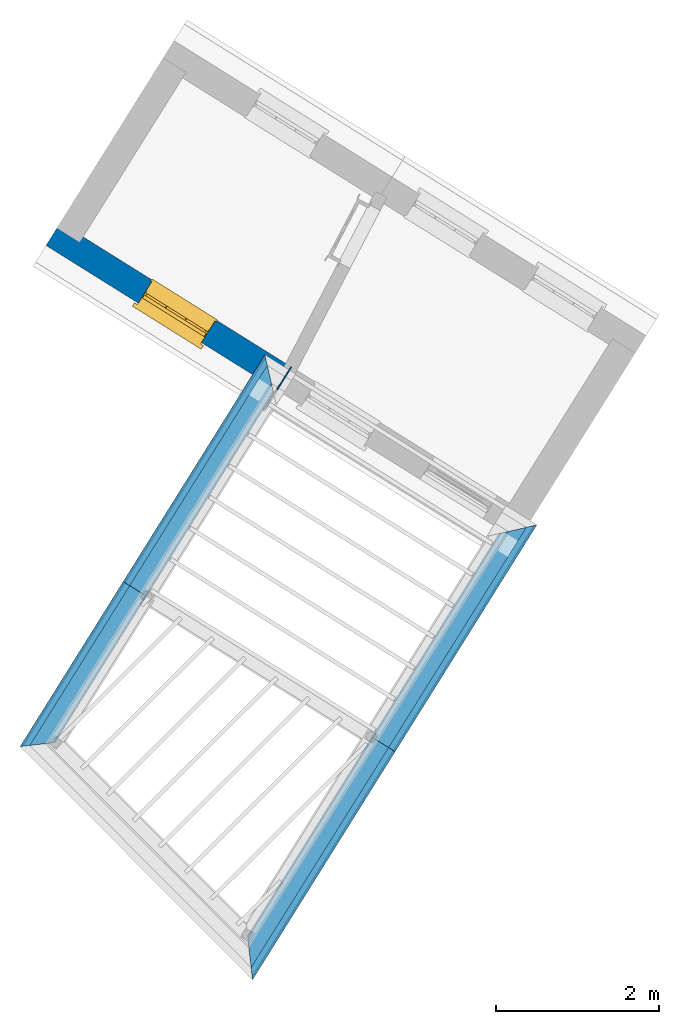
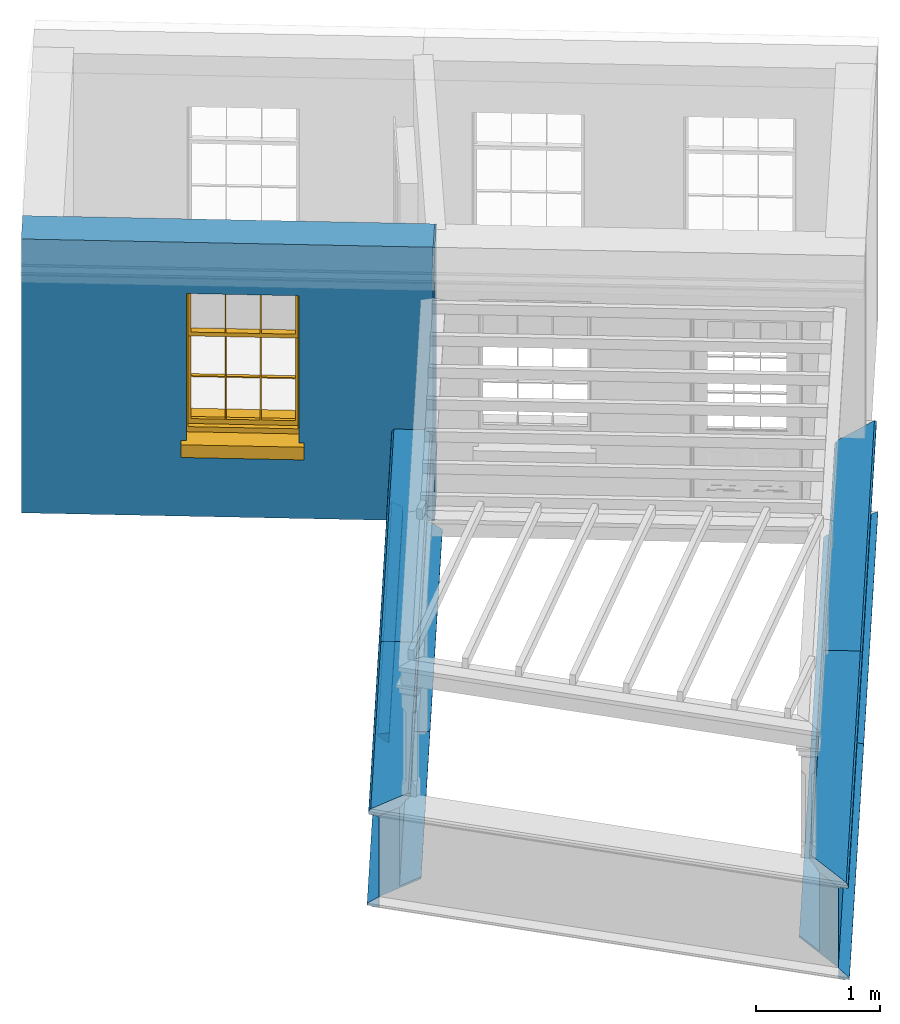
# One storey, part 2 of 5: 14 walls, 1 window, 1 opening.
"""IFC4 building model written with IfcOpenShell, lengths in metres."""

from ifc_helpers import new_model, si_unit, frame, origin, origin_with_axes, place, context, subcontext, project, spatial, polyline, outline, extrude, clip, halfspace, faceted_brep, source, transform, mapped, material, layer, layer_set, layer_usage, material_profile, profile_set, profile_usage, type_object, type_shapes, element, fill, save


model = new_model("IFC4")

# Units and contexts
model_context = context("Model", 3, world=origin_with_axes())
body_context = subcontext(model_context, "Body", "Model", "MODEL_VIEW")
ifc_project = project(units=[si_unit("PLANEANGLEUNIT", "RADIAN"), si_unit("MASSUNIT", "GRAM", prefix="KILO"), si_unit("FORCEUNIT", "NEWTON", prefix="KILO"), si_unit("LENGTHUNIT", "METRE"), si_unit("AREAUNIT", "SQUARE_METRE"), si_unit("VOLUMEUNIT", "CUBIC_METRE")], contexts=[model_context, model_context])

# Sites, building, storey
site_1_placement = place(None, origin_with_axes())
site_1 = spatial("IfcSite", under=ifc_project, at=site_1_placement, Name="Tamar")
site_2_placement = place(site_1_placement, origin_with_axes())
site_2 = spatial("IfcSite", under=site_1, at=site_2_placement, Name="Site plot-3", CompositionType="ELEMENT")
building_placement = place(None, origin_with_axes())
building = spatial("IfcBuilding", under=site_2, at=building_placement, Name="Building plot-3", CompositionType="ELEMENT")
storey_placement = place(None, frame((0.0, 0.0, 30.5), z_axis=(0.0, 0.0, 1.0), x_axis=(1.0, 0.0, 0.0)))
storey = spatial("IfcBuildingStorey", under=building, at=storey_placement, Name="plot-3 2", CompositionType="ELEMENT", Elevation=30.5)

# Wall, opening, window
ifc_material = material(Name="Masonry")
ifc_layer = layer(ifc_material, 0.33, ventilated=False)
ifc_layer_set = layer_set([ifc_layer], Name="exterior_0.08_0.25")
ifc_layer_usage = layer_usage(ifc_layer_set, "AXIS2", "POSITIVE", -0.25)
wall_type_1 = type_object("IfcWallType", Name="exterior_0.08_0.25", PredefinedType="SOLIDWALL", material=ifc_layer_set)
wall_1_placement = place(storey_placement, frame((213.677187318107, 287.698431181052, 0.0), z_axis=(0.0, 0.0, 1.0), x_axis=(0.847981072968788, -0.530026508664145, 0.0)))
wall_1 = element("IfcWall", 1, at=wall_1_placement, inside=storey, type_object=wall_type_1, material=ifc_layer_usage, Name="exterior", context=body_context, shape_type="SweptSolid", body=[
    extrude(outline(polyline([(-0.249999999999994, 0.0800000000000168), (-0.249999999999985, -0.250000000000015), (3.0776536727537, -0.25000000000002), (3.07765367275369, 0.0800000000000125), (-0.249999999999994, 0.0800000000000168)])), origin_with_axes(), (0.0, 0.0, 1.0), 2.7),
])
opening_placement = place(wall_1_placement, frame((1.08382683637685, 0.0, 0.75)))
opening = element("IfcOpeningElement", 2, at=opening_placement, cuts=wall_1, Name="My Opening", ObjectType="Opening", context=body_context, shape_type="SweptSolid", body=[
    extrude(outline(polyline([(0.0, -0.269999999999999), (0.909999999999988, -0.270000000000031), (0.91, 1.09999999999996), (1.24344978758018e-14, 1.09999999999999), (0.0, -0.269999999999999)])), origin_with_axes(), (0.0, 0.0, 1.0), 1.445),
])
window_type = type_object("IfcWindowType", Name="sash_shorter", PartitioningType="DOUBLE_PANEL_HORIZONTAL", PredefinedType="NOTDEFINED")
shared_shape = source(origin(), body_context, "Body", "Brep", [
    faceted_brep([(0.876875, 0.145, 0.999097), (0.876875, 0.145, 1.411875), (0.9, 0.145, 1.435), (0.033125, 0.145, 1.411875), (0.033125, 0.145, 0.999097), (0.01, 0.145, 1.435), (0.033125, 0.115, 1.411875), (0.01, 0.115, 1.435), (0.033125, 0.115, 0.999097), (0.876875, 0.115, 1.411875), (0.876875, 0.115, 0.999097), (0.9, 0.115, 1.435), (0.033125, 0.145, 0.960972), (0.01, 0.145, 0.960972), (0.033125, 0.145, 0.548195), (0.876875, 0.145, 0.960972), (0.876875, 0.145, 0.548195), (0.9, 0.145, 0.960972), (0.876875, 0.145, 0.538195), (0.876875, 0.145, 0.125417), (0.9, 0.145, 0.077167), (0.033125, 0.145, 0.125417), (0.033125, 0.145, 0.538195), (0.01, 0.145, 0.077167), (0.9, 0.115, 0.960972), (0.01, 0.115, 0.960972), (-0.0425, 0.0, 0.01), (-0.0425, -0.05, 0.001667), (0.0, 0.0, 0.01), (0.9525, 0.0, 0.01), (0.91, 0.0, 0.01), (0.9525, -0.05, 0.001667), (-0.02, 0.33, 0.077167), (0.0, 0.33, 0.077167), (-0.02, 0.36, 0.077167), (0.0, 0.19, 0.077167), (0.01, 0.19, 0.077167), (0.91, 0.19, 0.077167), (0.91, 0.33, 0.077167), (0.9, 0.19, 0.077167), (0.93, 0.33, 0.077167), (0.93, 0.36, 0.077167), (0.01, 0.145, 0.999097), (0.01, 0.175, 0.999097), (0.9, 0.145, 0.999097), (0.9, 0.175, 0.999097), (0.876875, 0.175, 0.125417), (0.876875, 0.175, 0.538195), (0.9, 0.175, 0.077167), (0.876875, 0.175, 0.548195), (0.876875, 0.175, 0.960972), (0.033125, 0.175, 0.125417), (0.01, 0.175, 0.077167), (0.033125, 0.175, 0.538195), (0.033125, 0.175, 0.960972), (0.033125, 0.175, 0.548195), (-0.02, 0.33, 0.052167), (-0.02, 0.36, 0.052167), (0.93, 0.36, 0.052167), (0.93, 0.33, 0.052167), (0.91, 0.33, 0.052167), (0.0, 0.33, 0.052167), (0.91, 0.1, 0.026667), (0.0, 0.1, 0.026667), (-0.0425, -0.05, -0.123333), (0.9525, -0.05, -0.123333), (-0.0425, 0.0, -0.123333), (0.9525, 0.0, -0.123333), (0.01, 0.19, 1.435), (0.9, 0.19, 1.435), (0.0, 0.19, 1.445), (0.91, 0.19, 1.445), (0.01, 0.1, 0.077167), (0.9, 0.1, 0.077167), (0.592292, 0.145, 0.125417), (0.592292, 0.175, 0.125417), (0.317708, 0.175, 0.125417), (0.317708, 0.145, 0.125417), (0.592292, 0.145, 0.548195), (0.317708, 0.145, 0.548195), (0.317708, 0.145, 0.538195), (0.592292, 0.145, 0.538195), (0.592292, 0.175, 0.548195), (0.317708, 0.175, 0.548195), (0.602292, 0.175, 0.548195), (0.602292, 0.145, 0.548195), (0.317708, 0.175, 0.538195), (0.307708, 0.175, 0.125417), (0.307708, 0.175, 0.538195), (0.602292, 0.175, 0.538195), (0.602292, 0.175, 0.125417), (0.592292, 0.175, 0.538195), (0.307708, 0.175, 0.548195), (0.317708, 0.175, 0.960972), (0.307708, 0.175, 0.960972), (0.602292, 0.175, 0.960972), (0.592292, 0.175, 0.960972), (0.307708, 0.145, 0.538195), (0.307708, 0.145, 0.125417), (0.307708, 0.145, 0.548195), (0.307708, 0.145, 0.960972), (0.592292, 0.145, 0.960972), (0.317708, 0.145, 0.960972), (0.602292, 0.145, 0.960972), (0.602292, 0.145, 0.538195), (0.602292, 0.145, 0.125417), (0.317708, 0.115, 1.411875), (0.307708, 0.115, 1.411875), (0.307708, 0.115, 0.999097), (0.317708, 0.115, 0.999097), (0.602292, 0.115, 1.411875), (0.592292, 0.115, 1.411875), (0.592292, 0.115, 0.999097), (0.602292, 0.115, 0.999097), (0.317708, 0.145, 0.999097), (0.307708, 0.145, 0.999097), (0.307708, 0.145, 1.411875), (0.317708, 0.145, 1.411875), (0.602292, 0.145, 0.999097), (0.592292, 0.145, 0.999097), (0.592292, 0.145, 1.411875), (0.602292, 0.145, 1.411875), (0.91, 0.1, 1.445), (0.9, 0.1, 1.435), (0.01, 0.1, 1.435), (0.0, 0.1, 1.445), (0.91, 0.0, 0.0), (0.0, 0.0, 0.0), (0.91, 0.33, 0.0), (0.0, 0.33, 0.0)], [[[0, 1, 2]], [[3, 4, 5]], [[6, 7, 8]], [[9, 10, 11]], [[12, 13, 14]], [[15, 16, 17]], [[18, 19, 20]], [[21, 22, 23]], [[24, 15, 17]], [[13, 12, 25]], [[26, 27, 28]], [[29, 30, 31]], [[32, 33, 34]], [[35, 36, 33]], [[37, 38, 39]], [[40, 41, 38]], [[42, 4, 43]], [[44, 45, 0]], [[46, 47, 48]], [[49, 50, 45]], [[51, 52, 53]], [[54, 55, 43]], [[38, 33, 36, 39]], [[41, 34, 33, 38]], [[56, 32, 34, 57]], [[57, 34, 41, 58]], [[58, 41, 40, 59]], [[57, 58, 60, 61]], [[52, 48, 39, 36]], [[62, 63, 28, 30]], [[27, 31, 30, 28]], [[27, 64, 65, 31]], [[66, 67, 65, 64]], [[2, 5, 68, 69]], [[68, 70, 71, 69]], [[20, 23, 72, 73]], [[73, 72, 63, 62]], [[74, 75, 76, 77]], [[78, 79, 80, 81]], [[78, 82, 83, 79]], [[16, 49, 84, 85]], [[86, 76, 87, 88]], [[89, 90, 75, 91]], [[92, 88, 53, 55]], [[82, 91, 86, 83]], [[93, 83, 92, 94]], [[95, 84, 82, 96]], [[89, 84, 49, 47]], [[97, 88, 87, 98]], [[22, 53, 88, 97]], [[81, 91, 75, 74]], [[80, 86, 91, 81]], [[77, 76, 86, 80]], [[99, 92, 55, 14]], [[100, 94, 92, 99]], [[101, 96, 82, 78]], [[79, 83, 93, 102]], [[85, 84, 95, 103]], [[104, 89, 47, 18]], [[105, 90, 89, 104]], [[104, 18, 16, 85]], [[80, 97, 98, 77]], [[104, 81, 74, 105]], [[103, 101, 78, 85]], [[99, 14, 22, 97]], [[102, 100, 99, 79]], [[106, 107, 108, 109]], [[110, 111, 112, 113]], [[114, 115, 116, 117]], [[118, 119, 120, 121]], [[107, 116, 115, 108]], [[111, 120, 119, 112]], [[109, 114, 117, 106]], [[113, 118, 121, 110]], [[85, 78, 81, 104]], [[84, 89, 91, 82]], [[83, 86, 88, 92]], [[79, 99, 97, 80]], [[109, 112, 119, 114]], [[102, 93, 96, 101]], [[106, 117, 120, 111]], [[98, 87, 51, 21]], [[6, 3, 116, 107]], [[110, 121, 1, 9]], [[19, 46, 90, 105]], [[26, 66, 64, 27]], [[29, 31, 65, 67]], [[25, 24, 112, 109]], [[11, 7, 106, 111]], [[75, 48, 52, 76]], [[43, 45, 96, 93]], [[45, 43, 114, 119]], [[5, 2, 120, 117]], [[24, 25, 102, 101]], [[42, 5, 4]], [[2, 44, 0]], [[49, 45, 48, 47]], [[52, 43, 55, 53]], [[14, 13, 23, 22]], [[20, 17, 16, 18]], [[24, 11, 10]], [[25, 8, 7]], [[8, 4, 3, 6]], [[9, 1, 0, 10]], [[15, 50, 49, 16]], [[18, 47, 46, 19]], [[21, 51, 53, 22]], [[14, 55, 54, 12]], [[44, 2, 69, 45]], [[68, 5, 42, 43]], [[36, 35, 70, 68]], [[39, 69, 71, 37]], [[62, 122, 123, 73]], [[63, 72, 124, 125]], [[8, 108, 115, 4]], [[113, 10, 0, 118]], [[94, 100, 12, 54]], [[17, 20, 73, 24]], [[72, 23, 13, 25]], [[52, 36, 68, 43]], [[69, 39, 48, 45]], [[11, 24, 73, 123]], [[7, 124, 72, 25]], [[23, 77, 98]], [[98, 21, 23]], [[105, 74, 20]], [[20, 19, 105]], [[20, 74, 77, 23]], [[113, 112, 24]], [[24, 10, 113]], [[25, 109, 108]], [[108, 8, 25]], [[110, 9, 11]], [[11, 111, 110]], [[7, 6, 107]], [[107, 106, 7]], [[5, 117, 116]], [[116, 3, 5]], [[121, 120, 2]], [[2, 1, 121]], [[11, 123, 124, 7]], [[122, 125, 124, 123]], [[43, 93, 94]], [[94, 54, 43]], [[96, 45, 95]], [[50, 95, 45]], [[15, 103, 95, 50]], [[48, 75, 90]], [[90, 46, 48]], [[87, 76, 52]], [[52, 51, 87]], [[103, 15, 24]], [[24, 101, 103]], [[100, 102, 25]], [[25, 12, 100]], [[115, 114, 43]], [[43, 4, 115]], [[118, 0, 45]], [[45, 119, 118]], [[71, 70, 125, 122]], [[70, 35, 63, 125]], [[122, 62, 37, 71]], [[126, 67, 66, 127]], [[60, 58, 59]], [[38, 60, 59, 40]], [[61, 56, 57]], [[32, 56, 61, 33]], [[61, 60, 128, 129]], [[62, 60, 38, 37]], [[126, 128, 60, 62]], [[33, 61, 63, 35]], [[61, 129, 127, 63]], [[128, 126, 127, 129]], [[28, 127, 66, 26]], [[63, 127, 28]], [[29, 67, 126, 30]], [[30, 126, 62]]]),
])
type_shapes(window_type, [shared_shape])
window_placement = place(storey_placement, frame((214.453144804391, 286.895019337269, 0.75), z_axis=(0.0, 0.0, 1.0), x_axis=(0.77166277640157, -0.482324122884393, 0.0)))
window = element("IfcWindow", 3, at=window_placement, inside=storey, type_object=window_type, Name="bedroom outside window", OverallHeight=1.445, OverallWidth=0.91, context=body_context, shape_type="MappedRepresentation", body=[
    mapped(shared_shape, transform((0.0, 0.0, 0.0), scale=1.0)),
])
fill(opening, window)

# Walls
wall_2_placement = place(storey_placement, frame((216.286979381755, 286.067193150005, 0.0), z_axis=(0.0, 0.0, 1.0), x_axis=(0.847981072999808, -0.530026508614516, 0.0)))
element("IfcWall", 4, at=wall_2_placement, inside=storey, type_object=wall_type_1, material=ifc_layer_usage, Name="exterior", context=body_context, shape_type="SweptSolid", body=[
    extrude(outline(polyline([(4.68415130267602e-12, 0.0800000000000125), (-1.46205729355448e-11, -0.25000000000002), (0.0143229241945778, -0.249999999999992), (0.0143229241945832, 0.0799999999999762), (4.68415130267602e-12, 0.0800000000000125)])), origin_with_axes(), (0.0, 0.0, 1.0), 2.7),
])
ifc_material_profile_1 = material_profile(None, outline(polyline([(0.25, 0.0), (0.25, 0.795), (0.09, 0.795), (0.09, 0.02), (-0.08, 0.02), (-0.08, 0.0), (0.25, 0.0)])))
ifc_profile_set_1 = profile_set([ifc_material_profile_1])
ifc_profile_usage_1 = profile_usage(ifc_profile_set_1)
wall_type_2 = type_object("IfcWallType", Name="parapet_0", PredefinedType="PARAPET", material=ifc_profile_set_1)
wall_3_placement = place(storey_placement, frame((214.039351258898, 282.47124827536, 0.0), z_axis=(0.530026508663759, 0.847981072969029, 0.0), x_axis=(-0.847981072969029, 0.530026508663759, 0.0)))
element("IfcWall", 5, at=wall_3_placement, inside=storey, type_object=wall_type_2, material=ifc_profile_usage_1, Name="parapet_0", context=body_context, shape_type="Clipping", body=[
    clip(clip(extrude(outline(polyline([(0.25, 0.0), (0.25, 0.795), (0.09, 0.795), (0.09, 0.02), (-0.08, 0.02), (-0.08, 0.0), (0.25, 0.0)])), origin_with_axes(), (0.0, 0.0, 1.0), 4.9305956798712), halfspace(frame((0.0, 0.0, 3.9305956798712), z_axis=(0.707106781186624, 0.0, -0.707106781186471), x_axis=(0.0, 1.0, 0.0)), True)), halfspace(frame((0.0, 0.0, 1.0), z_axis=(-1.83758917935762e-15, 0.0, -1.0), x_axis=(0.0, 1.0, 0.0)), False)),
])
ifc_profile_usage_2 = profile_usage(ifc_profile_set_1)
wall_4_placement = place(storey_placement, frame((212.921650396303, 280.683056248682, 0.0), z_axis=(0.530026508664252, 0.847981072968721, 0.0), x_axis=(-0.847981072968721, 0.530026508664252, 0.0)))
element("IfcWall", 6, at=wall_4_placement, inside=storey, type_object=wall_type_2, material=ifc_profile_usage_2, Name="parapet_0", context=body_context, shape_type="Clipping", body=[
    clip(clip(extrude(outline(polyline([(0.25, 0.0), (0.25, 0.795), (0.09, 0.795), (0.09, 0.02), (-0.08, 0.02), (-0.08, 0.0), (0.25, 0.0)])), origin_with_axes(), (0.0, 0.0, 1.0), 4.10876407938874), halfspace(frame((0.0, 0.0, 3.10876407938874), z_axis=(-5.82706275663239e-13, 0.0, -1.0), x_axis=(0.0, 1.0, 0.0)), True)), halfspace(frame((0.0, 0.0, 1.0), z_axis=(-0.621754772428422, 0.0, -0.783211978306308), x_axis=(0.0, 1.0, 0.0)), False)),
])
ifc_profile_usage_3 = profile_usage(ifc_profile_set_1)
wall_5_placement = place(storey_placement, frame((217.846750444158, 282.449994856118, 0.0), z_axis=(-0.530026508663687, -0.847981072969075, 0.0), x_axis=(0.847981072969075, -0.530026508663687, 0.0)))
element("IfcWall", 7, at=wall_5_placement, inside=storey, type_object=wall_type_2, material=ifc_profile_usage_3, Name="parapet_0", context=body_context, shape_type="Clipping", body=[
    clip(clip(extrude(outline(polyline([(0.25, 0.0), (0.25, 0.795), (0.09, 0.795), (0.09, 0.02), (-0.08, 0.02), (-0.08, 0.0), (0.25, 0.0)])), origin_with_axes(), (0.0, 0.0, 1.0), 4.86337356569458), halfspace(frame((0.0, 0.0, 3.86337356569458), z_axis=(0.78321197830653, 0.0, -0.621754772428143), x_axis=(0.0, 1.0, 0.0)), True)), halfspace(frame((0.0, 0.0, 1.0), z_axis=(6.60010580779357e-15, 0.0, -1.0), x_axis=(0.0, 1.0, 0.0)), False)),
])
ifc_profile_usage_4 = profile_usage(ifc_profile_set_1)
wall_6_placement = place(storey_placement, frame((219.400043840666, 284.935084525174, 0.0), z_axis=(-0.530026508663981, -0.847981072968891, 0.0), x_axis=(0.847981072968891, -0.530026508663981, 0.0)))
element("IfcWall", 8, at=wall_6_placement, inside=storey, type_object=wall_type_2, material=ifc_profile_usage_4, Name="parapet_0", context=body_context, shape_type="Clipping", body=[
    clip(clip(extrude(outline(polyline([(0.25, 0.0), (0.25, 0.795), (0.09, 0.795), (0.09, 0.02), (-0.08, 0.02), (-0.08, 0.0), (0.25, 0.0)])), origin_with_axes(), (0.0, 0.0, 1.0), 4.93059567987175), halfspace(frame((0.0, 0.0, 3.93059567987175), z_axis=(-3.4045561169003e-13, 0.0, -1.0), x_axis=(0.0, 1.0, 0.0)), True)), halfspace(frame((0.0, 0.0, 1.0), z_axis=(-0.707106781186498, 0.0, -0.707106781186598), x_axis=(0.0, 1.0, 0.0)), False)),
])
ifc_material_profile_2 = material_profile(None, outline(polyline([(0.265, 0.795), (0.268, 0.807), (0.274, 0.816), (0.283, 0.822), (0.295, 0.825), (0.295, 0.84), (0.305, 0.84), (0.317, 0.842), (0.326, 0.849), (0.333, 0.858), (0.335, 0.87), (0.333, 0.882), (0.326, 0.891), (0.317, 0.898), (0.305, 0.9), (0.035, 0.9), (0.023, 0.898), (0.014, 0.891), (0.007, 0.882), (0.005, 0.87), (0.007, 0.858), (0.014, 0.849), (0.023, 0.842), (0.035, 0.84), (0.045, 0.84), (0.045, 0.825), (0.057, 0.822), (0.066, 0.816), (0.072, 0.807), (0.075, 0.795), (0.265, 0.795)])))
ifc_profile_set_2 = profile_set([ifc_material_profile_2])
ifc_profile_usage_5 = profile_usage(ifc_profile_set_2)
wall_type_3 = type_object("IfcWallType", Name="parapet_1", PredefinedType="PARAPET", material=ifc_profile_set_2)
wall_7_placement = place(storey_placement, frame((214.039351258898, 282.47124827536, 0.0), z_axis=(0.530026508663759, 0.847981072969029, 0.0), x_axis=(-0.847981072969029, 0.530026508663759, 0.0)))
element("IfcWall", 9, at=wall_7_placement, inside=storey, type_object=wall_type_3, material=ifc_profile_usage_5, Name="parapet_1", context=body_context, shape_type="Clipping", body=[
    clip(clip(extrude(outline(polyline([(0.265, 0.795), (0.268, 0.807), (0.274, 0.816), (0.283, 0.822), (0.295, 0.825), (0.295, 0.84), (0.305, 0.84), (0.317, 0.842), (0.326, 0.849), (0.333, 0.858), (0.335, 0.87), (0.333, 0.882), (0.326, 0.891), (0.317, 0.898), (0.305, 0.9), (0.035, 0.9), (0.023, 0.898), (0.014, 0.891), (0.007, 0.882), (0.005, 0.87), (0.007, 0.858), (0.014, 0.849), (0.023, 0.842), (0.035, 0.84), (0.045, 0.84), (0.045, 0.825), (0.057, 0.822), (0.066, 0.816), (0.072, 0.807), (0.075, 0.795), (0.265, 0.795)])), origin_with_axes(), (0.0, 0.0, 1.0), 4.9305956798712), halfspace(frame((0.0, 0.0, 3.9305956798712), z_axis=(0.707106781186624, 0.0, -0.707106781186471), x_axis=(0.0, 1.0, 0.0)), True)), halfspace(frame((0.0, 0.0, 1.0), z_axis=(-1.83758917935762e-15, 0.0, -1.0), x_axis=(0.0, 1.0, 0.0)), False)),
])
ifc_profile_usage_6 = profile_usage(ifc_profile_set_2)
wall_8_placement = place(storey_placement, frame((212.921650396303, 280.683056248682, 0.0), z_axis=(0.530026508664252, 0.847981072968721, 0.0), x_axis=(-0.847981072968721, 0.530026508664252, 0.0)))
element("IfcWall", 10, at=wall_8_placement, inside=storey, type_object=wall_type_3, material=ifc_profile_usage_6, Name="parapet_1", context=body_context, shape_type="Clipping", body=[
    clip(clip(extrude(outline(polyline([(0.265, 0.795), (0.268, 0.807), (0.274, 0.816), (0.283, 0.822), (0.295, 0.825), (0.295, 0.84), (0.305, 0.84), (0.317, 0.842), (0.326, 0.849), (0.333, 0.858), (0.335, 0.87), (0.333, 0.882), (0.326, 0.891), (0.317, 0.898), (0.305, 0.9), (0.035, 0.9), (0.023, 0.898), (0.014, 0.891), (0.007, 0.882), (0.005, 0.87), (0.007, 0.858), (0.014, 0.849), (0.023, 0.842), (0.035, 0.84), (0.045, 0.84), (0.045, 0.825), (0.057, 0.822), (0.066, 0.816), (0.072, 0.807), (0.075, 0.795), (0.265, 0.795)])), origin_with_axes(), (0.0, 0.0, 1.0), 4.10876407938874), halfspace(frame((0.0, 0.0, 3.10876407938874), z_axis=(-5.82706275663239e-13, 0.0, -1.0), x_axis=(0.0, 1.0, 0.0)), True)), halfspace(frame((0.0, 0.0, 1.0), z_axis=(-0.621754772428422, 0.0, -0.783211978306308), x_axis=(0.0, 1.0, 0.0)), False)),
])
ifc_profile_usage_7 = profile_usage(ifc_profile_set_2)
wall_9_placement = place(storey_placement, frame((217.846750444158, 282.449994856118, 0.0), z_axis=(-0.530026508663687, -0.847981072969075, 0.0), x_axis=(0.847981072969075, -0.530026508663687, 0.0)))
element("IfcWall", 11, at=wall_9_placement, inside=storey, type_object=wall_type_3, material=ifc_profile_usage_7, Name="parapet_1", context=body_context, shape_type="Clipping", body=[
    clip(clip(extrude(outline(polyline([(0.265, 0.795), (0.268, 0.807), (0.274, 0.816), (0.283, 0.822), (0.295, 0.825), (0.295, 0.84), (0.305, 0.84), (0.317, 0.842), (0.326, 0.849), (0.333, 0.858), (0.335, 0.87), (0.333, 0.882), (0.326, 0.891), (0.317, 0.898), (0.305, 0.9), (0.035, 0.9), (0.023, 0.898), (0.014, 0.891), (0.007, 0.882), (0.005, 0.87), (0.007, 0.858), (0.014, 0.849), (0.023, 0.842), (0.035, 0.84), (0.045, 0.84), (0.045, 0.825), (0.057, 0.822), (0.066, 0.816), (0.072, 0.807), (0.075, 0.795), (0.265, 0.795)])), origin_with_axes(), (0.0, 0.0, 1.0), 4.86337356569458), halfspace(frame((0.0, 0.0, 3.86337356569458), z_axis=(0.78321197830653, 0.0, -0.621754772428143), x_axis=(0.0, 1.0, 0.0)), True)), halfspace(frame((0.0, 0.0, 1.0), z_axis=(6.60010580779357e-15, 0.0, -1.0), x_axis=(0.0, 1.0, 0.0)), False)),
])
ifc_profile_usage_8 = profile_usage(ifc_profile_set_2)
wall_10_placement = place(storey_placement, frame((219.400043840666, 284.935084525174, 0.0), z_axis=(-0.530026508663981, -0.847981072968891, 0.0), x_axis=(0.847981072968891, -0.530026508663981, 0.0)))
element("IfcWall", 12, at=wall_10_placement, inside=storey, type_object=wall_type_3, material=ifc_profile_usage_8, Name="parapet_1", context=body_context, shape_type="Clipping", body=[
    clip(clip(extrude(outline(polyline([(0.265, 0.795), (0.268, 0.807), (0.274, 0.816), (0.283, 0.822), (0.295, 0.825), (0.295, 0.84), (0.305, 0.84), (0.317, 0.842), (0.326, 0.849), (0.333, 0.858), (0.335, 0.87), (0.333, 0.882), (0.326, 0.891), (0.317, 0.898), (0.305, 0.9), (0.035, 0.9), (0.023, 0.898), (0.014, 0.891), (0.007, 0.882), (0.005, 0.87), (0.007, 0.858), (0.014, 0.849), (0.023, 0.842), (0.035, 0.84), (0.045, 0.84), (0.045, 0.825), (0.057, 0.822), (0.066, 0.816), (0.072, 0.807), (0.075, 0.795), (0.265, 0.795)])), origin_with_axes(), (0.0, 0.0, 1.0), 4.93059567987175), halfspace(frame((0.0, 0.0, 3.93059567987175), z_axis=(-3.4045561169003e-13, 0.0, -1.0), x_axis=(0.0, 1.0, 0.0)), True)), halfspace(frame((0.0, 0.0, 1.0), z_axis=(-0.707106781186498, 0.0, -0.707106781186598), x_axis=(0.0, 1.0, 0.0)), False)),
])
ifc_material_profile_3 = material_profile(None, outline(polyline([(0.25, -0.1), (0.265, -0.1), (0.265, -0.085), (0.278, -0.084), (0.289, -0.081), (0.301, -0.074), (0.309, -0.065), (0.315, -0.055), (0.324, -0.044), (0.334, -0.038), (0.345, -0.035), (0.345, -0.015), (0.25, 0.0), (0.25, -0.1)])))
ifc_profile_set_3 = profile_set([ifc_material_profile_3])
ifc_profile_usage_9 = profile_usage(ifc_profile_set_3)
wall_type_4 = type_object("IfcWallType", Name="parapet_2", PredefinedType="PARAPET", material=ifc_profile_set_3)
wall_11_placement = place(storey_placement, frame((214.039351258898, 282.47124827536, 0.0), z_axis=(0.530026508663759, 0.847981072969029, 0.0), x_axis=(-0.847981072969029, 0.530026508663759, 0.0)))
element("IfcWall", 13, at=wall_11_placement, inside=storey, type_object=wall_type_4, material=ifc_profile_usage_9, Name="parapet_2", context=body_context, shape_type="Clipping", body=[
    clip(clip(extrude(outline(polyline([(0.25, -0.1), (0.265, -0.1), (0.265, -0.085), (0.278, -0.084), (0.289, -0.081), (0.301, -0.074), (0.309, -0.065), (0.315, -0.055), (0.324, -0.044), (0.334, -0.038), (0.345, -0.035), (0.345, -0.015), (0.25, 0.0), (0.25, -0.1)])), origin_with_axes(), (0.0, 0.0, 1.0), 4.9305956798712), halfspace(frame((0.0, 0.0, 3.9305956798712), z_axis=(0.707106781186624, 0.0, -0.707106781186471), x_axis=(0.0, 1.0, 0.0)), True)), halfspace(frame((0.0, 0.0, 1.0), z_axis=(-1.83758917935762e-15, 0.0, -1.0), x_axis=(0.0, 1.0, 0.0)), False)),
])
ifc_profile_usage_10 = profile_usage(ifc_profile_set_3)
wall_12_placement = place(storey_placement, frame((212.921650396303, 280.683056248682, 0.0), z_axis=(0.530026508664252, 0.847981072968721, 0.0), x_axis=(-0.847981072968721, 0.530026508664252, 0.0)))
element("IfcWall", 14, at=wall_12_placement, inside=storey, type_object=wall_type_4, material=ifc_profile_usage_10, Name="parapet_2", context=body_context, shape_type="Clipping", body=[
    clip(clip(extrude(outline(polyline([(0.25, -0.1), (0.265, -0.1), (0.265, -0.085), (0.278, -0.084), (0.289, -0.081), (0.301, -0.074), (0.309, -0.065), (0.315, -0.055), (0.324, -0.044), (0.334, -0.038), (0.345, -0.035), (0.345, -0.015), (0.25, 0.0), (0.25, -0.1)])), origin_with_axes(), (0.0, 0.0, 1.0), 4.10876407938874), halfspace(frame((0.0, 0.0, 3.10876407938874), z_axis=(-5.82706275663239e-13, 0.0, -1.0), x_axis=(0.0, 1.0, 0.0)), True)), halfspace(frame((0.0, 0.0, 1.0), z_axis=(-0.621754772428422, 0.0, -0.783211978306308), x_axis=(0.0, 1.0, 0.0)), False)),
])
ifc_profile_usage_11 = profile_usage(ifc_profile_set_3)
wall_13_placement = place(storey_placement, frame((217.846750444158, 282.449994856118, 0.0), z_axis=(-0.530026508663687, -0.847981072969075, 0.0), x_axis=(0.847981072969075, -0.530026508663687, 0.0)))
element("IfcWall", 15, at=wall_13_placement, inside=storey, type_object=wall_type_4, material=ifc_profile_usage_11, Name="parapet_2", context=body_context, shape_type="Clipping", body=[
    clip(clip(extrude(outline(polyline([(0.25, -0.1), (0.265, -0.1), (0.265, -0.085), (0.278, -0.084), (0.289, -0.081), (0.301, -0.074), (0.309, -0.065), (0.315, -0.055), (0.324, -0.044), (0.334, -0.038), (0.345, -0.035), (0.345, -0.015), (0.25, 0.0), (0.25, -0.1)])), origin_with_axes(), (0.0, 0.0, 1.0), 4.86337356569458), halfspace(frame((0.0, 0.0, 3.86337356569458), z_axis=(0.78321197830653, 0.0, -0.621754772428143), x_axis=(0.0, 1.0, 0.0)), True)), halfspace(frame((0.0, 0.0, 1.0), z_axis=(6.60010580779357e-15, 0.0, -1.0), x_axis=(0.0, 1.0, 0.0)), False)),
])
ifc_profile_usage_12 = profile_usage(ifc_profile_set_3)
wall_14_placement = place(storey_placement, frame((219.400043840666, 284.935084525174, 0.0), z_axis=(-0.530026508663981, -0.847981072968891, 0.0), x_axis=(0.847981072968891, -0.530026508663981, 0.0)))
element("IfcWall", 16, at=wall_14_placement, inside=storey, type_object=wall_type_4, material=ifc_profile_usage_12, Name="parapet_2", context=body_context, shape_type="Clipping", body=[
    clip(clip(extrude(outline(polyline([(0.25, -0.1), (0.265, -0.1), (0.265, -0.085), (0.278, -0.084), (0.289, -0.081), (0.301, -0.074), (0.309, -0.065), (0.315, -0.055), (0.324, -0.044), (0.334, -0.038), (0.345, -0.035), (0.345, -0.015), (0.25, 0.0), (0.25, -0.1)])), origin_with_axes(), (0.0, 0.0, 1.0), 4.93059567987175), halfspace(frame((0.0, 0.0, 3.93059567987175), z_axis=(-3.4045561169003e-13, 0.0, -1.0), x_axis=(0.0, 1.0, 0.0)), True)), halfspace(frame((0.0, 0.0, 1.0), z_axis=(-0.707106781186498, 0.0, -0.707106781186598), x_axis=(0.0, 1.0, 0.0)), False)),
])

save(model, "model.ifc")
